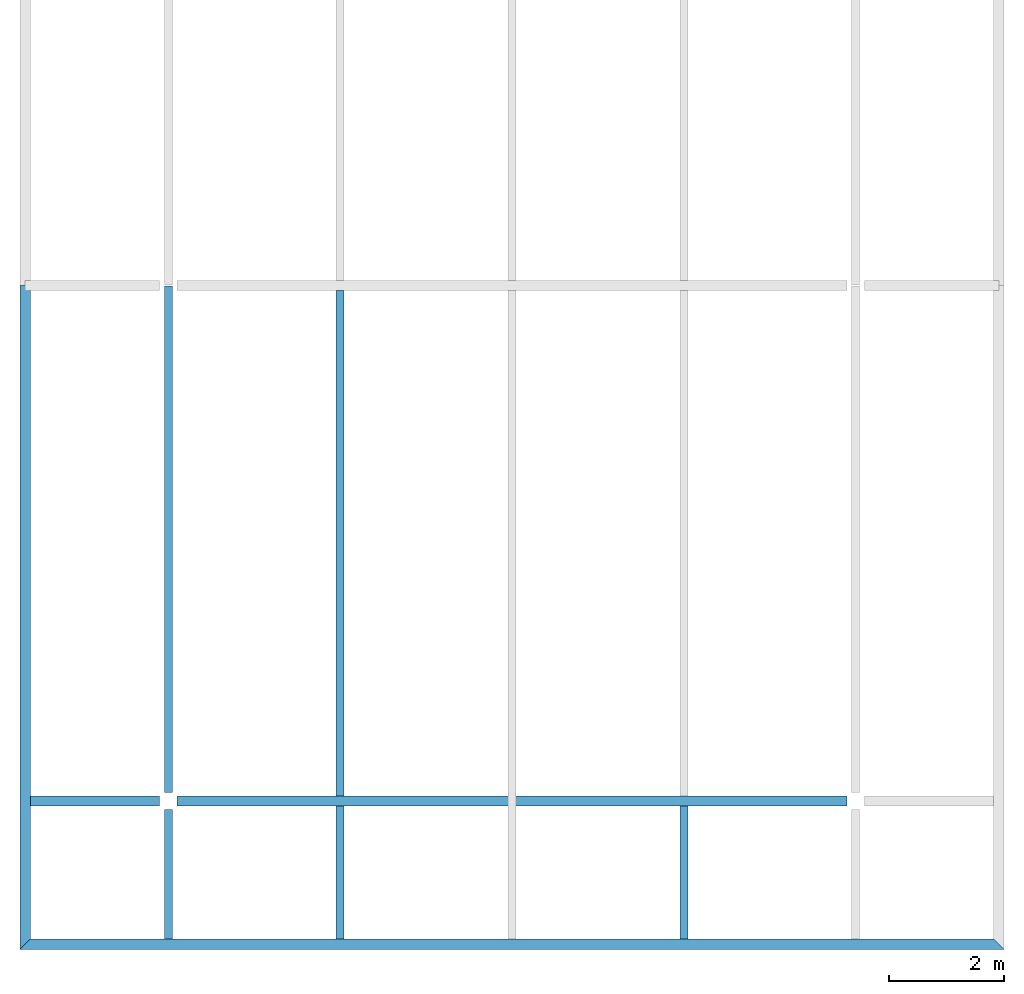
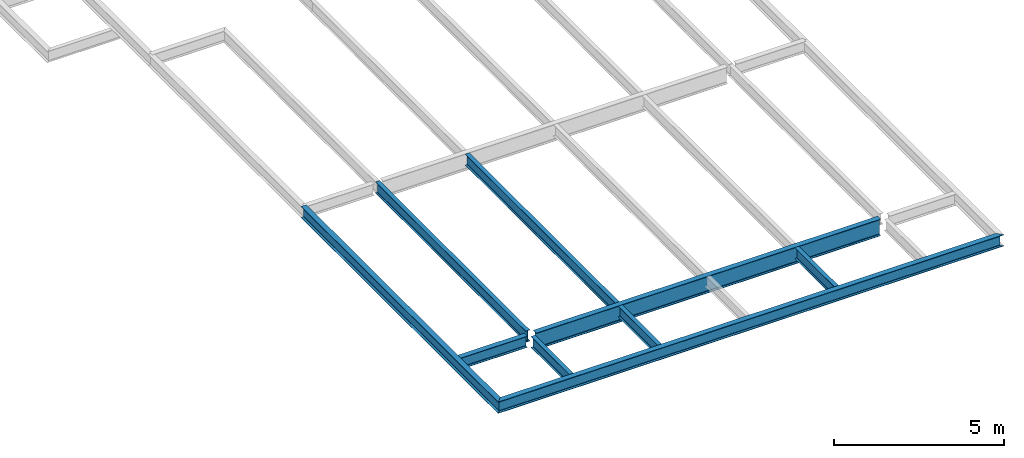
# One storey, part 1 of 7: 9 beams.
"""IFC2X3 building model written with IfcOpenShell, lengths in millimetres."""

import ifcopenshell
import ifcopenshell.guid

model = None  # the IFC model being written
_history = None  # IfcOwnerHistory: only IFC2X3 demands one
_inside = {}  # id of a spatial element -> (the spatial element, [elements in it])
_under = {}  # id of a project, library or spatial element -> (it, [spatial elements below it])
_declared = {}  # id of a project -> (the project, [libraries it declares])
_typed = {}  # id of a type object -> (the type object, [elements of that type])
_made_of = {}  # id of a material, layer set ... -> (it, [elements and type objects made of it])


def new_model(schema):
    """Start an empty IFC model of exactly this schema.

    Asked for "IFC4X3", IfcOpenShell would pick the latest addendum, in which some entities
    have other attributes; the version numbers below select the first issue.
    IFC2X3 requires an IfcOwnerHistory on every rooted entity: one is made here for all.
    """
    global model, _history
    if schema == "IFC4X3":
        model = ifcopenshell.file(schema_version=(4, 3, 0, 0))
    else:
        model = ifcopenshell.file(schema=schema)
    _inside.clear()
    _under.clear()
    _declared.clear()
    _typed.clear()
    _made_of.clear()
    _history = None
    if model.schema == "IFC2X3":
        org = make("IfcOrganization", Name="unknown")
        user = make(
            "IfcPersonAndOrganization",
            ThePerson=make("IfcPerson", FamilyName="unknown"),
            TheOrganization=org,
        )
        app = make(
            "IfcApplication",
            ApplicationDeveloper=org,
            Version="unknown",
            ApplicationFullName="unknown",
            ApplicationIdentifier="unknown",
        )
        _history = make(
            "IfcOwnerHistory",
            OwningUser=user,
            OwningApplication=app,
            ChangeAction="ADDED",
            CreationDate=0,
        )
    return model


def make(cls, **values):
    """One entity of the class cls with the attributes given. An attribute that is None is left unset."""
    return model.create_entity(
        cls, **{name: value for name, value in values.items() if value is not None}
    )


def rooted(cls, **values):
    """An entity with a GlobalId (a new one), such as an element, a storey or a relation."""
    return make(cls, GlobalId=ifcopenshell.guid.new(), OwnerHistory=_history, **values)


def si_unit(unit_type, name, prefix=None):
    """IfcSIUnit, for example si_unit("LENGTHUNIT", "METRE", prefix="MILLI")."""
    return make("IfcSIUnit", UnitType=unit_type, Prefix=prefix, Name=name)


def assignment(units):
    """IfcUnitAssignment: the units of a project."""
    return None if units is None else make("IfcUnitAssignment", Units=units)


def point(xyz):
    """IfcCartesianPoint."""
    return None if xyz is None else make("IfcCartesianPoint", Coordinates=xyz)


def direction(xyz):
    """IfcDirection."""
    return None if xyz is None else make("IfcDirection", DirectionRatios=xyz)


def frame(location, z_axis=None, x_axis=None):
    """IfcAxis2Placement3D, a coordinate frame: its origin and axes. An axis left out is left unset."""
    return make(
        "IfcAxis2Placement3D",
        Location=point(location),
        Axis=direction(z_axis),
        RefDirection=direction(x_axis),
    )


def origin():
    """The frame at (0, 0, 0) with its axes left unset."""
    return frame((0.0, 0.0, 0.0))


def place(relative_to, where):
    """IfcLocalPlacement: puts the frame where relative to a parent placement (None: the world)."""
    return make(
        "IfcLocalPlacement", PlacementRelTo=relative_to, RelativePlacement=where
    )


def context(
    kind, dimensions, precision=None, world=None, true_north=None, identifier=None
):
    """IfcGeometricRepresentationContext, for example the 3D "Model" context."""
    return make(
        "IfcGeometricRepresentationContext",
        ContextIdentifier=identifier,
        ContextType=kind,
        CoordinateSpaceDimension=dimensions,
        Precision=precision,
        WorldCoordinateSystem=world,
        TrueNorth=true_north,
    )


def project(units=None, contexts=None):
    """IfcProject with its units and contexts."""
    return rooted(
        "IfcProject",
        Name="project",
        RepresentationContexts=contexts,
        UnitsInContext=assignment(units),
    )


def spatial(cls, under=None, at=None, **own):
    """A site, building, storey or space (cls), placed at a placement, below another one or the project."""
    s = rooted(cls, ObjectPlacement=at, **own)
    if under is not None:
        _under.setdefault(under.id(), (under, []))[1].append(s)
    return s


def faces_of(points, faces, orient=None, outer=None):
    """IfcFace entities. A face is a list of loops; a loop is a list of indices into points, from 0.

    orient and outer hold one flag for each loop. By default every Orientation is true, the
    first loop of a face is its IfcFaceOuterBound and the others are IfcFaceBound.
    """
    made = []
    for i, loops in enumerate(faces):
        bounds = []
        for j, loop in enumerate(loops):
            is_outer = j == 0 if outer is None else outer[i][j]
            bounds.append(
                make(
                    "IfcFaceOuterBound" if is_outer else "IfcFaceBound",
                    Bound=make("IfcPolyLoop", Polygon=[points[k] for k in loop]),
                    Orientation=True if orient is None else orient[i][j],
                )
            )
        made.append(make("IfcFace", Bounds=bounds))
    return made


def faceted_brep(points, faces, orient=None, outer=None, voids=None):
    """IfcFacetedBrep: a solid bounded by flat faces; with voids (closed shells), ...WithVoids."""
    shared = [point(p) for p in points]
    hull = make("IfcClosedShell", CfsFaces=faces_of(shared, faces, orient, outer))
    if voids is None:
        return make("IfcFacetedBrep", Outer=hull)
    return make(
        "IfcFacetedBrepWithVoids",
        Outer=hull,
        Voids=[
            make(cls, CfsFaces=faces_of(shared, fs, o, b)) for cls, fs, o, b in voids
        ],
    )


def shape(context_of_items, identifier, shape_type, items):
    """IfcShapeRepresentation: the items that make up one representation, for example the "Body"."""
    return make(
        "IfcShapeRepresentation",
        ContextOfItems=context_of_items,
        RepresentationIdentifier=identifier,
        RepresentationType=shape_type,
        Items=items,
    )


def material(Name=None, Category=None):
    """IfcMaterial."""
    return make("IfcMaterial", Name=Name, Category=Category)


def made_of(thing, what):
    """Note that an element or type object is made of a material, layer set ...; save() writes the relation."""
    if what is not None:
        _made_of.setdefault(what.id(), (what, []))[1].append(thing)
    return thing


def element(
    cls,
    number,
    at=None,
    inside=None,
    cuts=None,
    type_object=None,
    material=None,
    context=None,
    identifier="Body",
    shape_type=None,
    held_by="IfcProductDefinitionShape",
    body=None,
    shapes=None,
    **own,
):
    """One element of the class cls, such as IfcWall. Its Tag is "e" and its number.

    at: its placement. inside: the storey or other place that contains it. cuts: it is an
    opening in that element (IfcRelVoidsElement). A single representation is given by context,
    identifier, shape_type and body (its items); several are given by shapes. held_by: the class
    of the entity that holds the representations. save() writes the other relations.
    """
    e = rooted(cls, Tag="e%d" % number, ObjectPlacement=at, **own)
    if body is not None:
        shapes = [shape(context, identifier, shape_type, body)]
    if shapes is not None:
        e.Representation = make(held_by, Representations=shapes)
    if inside is not None:
        _inside.setdefault(inside.id(), (inside, []))[1].append(e)
    if cuts is not None:
        rooted(
            "IfcRelVoidsElement", RelatingBuildingElement=cuts, RelatedOpeningElement=e
        )
    if type_object is not None:
        _typed.setdefault(type_object.id(), (type_object, []))[1].append(e)
    return made_of(e, material)


def aggregate(whole, parts):
    """IfcRelAggregates: a whole, such as a stair, and the parts it consists of."""
    return rooted("IfcRelAggregates", RelatingObject=whole, RelatedObjects=parts)


def save(model, path):
    """Write the relations noted so far, then the file.

    IfcRelAggregates (storeys below a building ...), IfcRelContainedInSpatialStructure (elements
    in a storey), IfcRelDefinesByType, IfcRelAssociatesMaterial and IfcRelDeclares: one each for
    every whole, place, type object, material and project.
    """
    for whole, parts in _under.values():
        aggregate(whole, parts)
    for where, things in _inside.values():
        rooted(
            "IfcRelContainedInSpatialStructure",
            RelatedElements=things,
            RelatingStructure=where,
        )
    for kind, things in _typed.values():
        rooted("IfcRelDefinesByType", RelatedObjects=things, RelatingType=kind)
    for what, things in _made_of.values():
        rooted("IfcRelAssociatesMaterial", RelatedObjects=things, RelatingMaterial=what)
    for by, libraries in _declared.values():
        rooted("IfcRelDeclares", RelatingContext=by, RelatedDefinitions=libraries)
    model.write(path)


model = new_model("IFC2X3")

# Units and contexts
context_of_model = context(None, 3, precision=1e-05, world=origin())
ifc_project = project(units=[si_unit("LENGTHUNIT", "METRE", prefix="MILLI")], contexts=[context_of_model])

# Building, storey
building = spatial("IfcBuilding", under=ifc_project, Name="Building", CompositionType="ELEMENT")
storey = spatial("IfcBuildingStorey", under=building, Name="ROF-FRM", CompositionType="ELEMENT")

# Beams
ifc_material_1 = material(Name="A992")
beam_1_placement = place(None, origin())
element("IfcBeam", 1, at=beam_1_placement, inside=storey, material=ifc_material_1, Name="B1128", context=context_of_model, shape_type="Brep", body=[
    faceted_brep([(-2410.0, -89.0, 31266.0), (-2410.0, 89.0, 31266.0), (-152.5, 89.0, 31266.0), (-152.5, -89.0, 31266.0), (-2410.0, 89.0, 31278.8), (-152.5, 89.0, 31278.8), (-2410.0, 14.05, 31278.8), (-152.5, 14.05, 31278.8), (-2410.0, 11.41, 31279.1), (-152.5, 11.41, 31279.1), (-2410.0, 8.95, 31280.2), (-152.5, 8.95, 31280.2), (-2410.0, 6.83751, 31281.8), (-152.5, 6.83751, 31281.8), (-2410.0, 5.21654, 31283.9), (-152.5, 5.21654, 31283.9), (-2410.0, 4.19756, 31286.4), (-152.5, 4.19756, 31286.4), (-2410.0, 3.85, 31289.0), (-152.5, 3.85, 31289.0), (-2410.0, 3.85, 31650.0), (-152.5, 3.85, 31650.0), (-2410.0, 4.19756, 31652.6), (-152.5, 4.19756, 31652.6), (-2410.0, 5.21654, 31655.1), (-152.5, 5.21654, 31655.1), (-2410.0, 6.83751, 31657.2), (-152.5, 6.83751, 31657.2), (-2410.0, 8.95, 31658.8), (-152.5, 8.95, 31658.8), (-2410.0, 11.41, 31659.9), (-152.5, 11.41, 31659.9), (-2410.0, 14.05, 31660.2), (-152.5, 14.05, 31660.2), (-2410.0, 89.0, 31660.2), (-152.5, 89.0, 31660.2), (-2410.0, 89.0, 31673.0), (-152.5, 89.0, 31673.0), (-2410.0, -89.0, 31673.0), (-152.5, -89.0, 31673.0), (-2410.0, -89.0, 31660.2), (-152.5, -89.0, 31660.2), (-2410.0, -14.05, 31660.2), (-152.5, -14.05, 31660.2), (-2410.0, -11.41, 31659.9), (-152.5, -11.41, 31659.9), (-2410.0, -8.95, 31658.8), (-152.5, -8.95, 31658.8), (-2410.0, -6.83751, 31657.2), (-152.5, -6.83751, 31657.2), (-2410.0, -5.21654, 31655.1), (-152.5, -5.21654, 31655.1), (-2410.0, -4.19756, 31652.6), (-152.5, -4.19756, 31652.6), (-2410.0, -3.85, 31650.0), (-152.5, -3.85, 31650.0), (-2410.0, -3.85, 31289.0), (-152.5, -3.85, 31289.0), (-2410.0, -4.19756, 31286.4), (-152.5, -4.19756, 31286.4), (-2410.0, -5.21654, 31283.9), (-152.5, -5.21654, 31283.9), (-2410.0, -6.83751, 31281.8), (-152.5, -6.83751, 31281.8), (-2410.0, -8.95, 31280.2), (-152.5, -8.95, 31280.2), (-2410.0, -11.41, 31279.1), (-152.5, -11.41, 31279.1), (-2410.0, -14.05, 31278.8), (-152.5, -14.05, 31278.8), (-2410.0, -89.0, 31278.8), (-152.5, -89.0, 31278.8)], [[[0, 1, 2, 3]], [[1, 4, 5, 2]], [[4, 6, 7, 5]], [[6, 8, 9, 7]], [[8, 10, 11, 9]], [[10, 12, 13, 11]], [[12, 14, 15, 13]], [[14, 16, 17, 15]], [[16, 18, 19, 17]], [[18, 20, 21, 19]], [[20, 22, 23, 21]], [[22, 24, 25, 23]], [[24, 26, 27, 25]], [[26, 28, 29, 27]], [[28, 30, 31, 29]], [[30, 32, 33, 31]], [[32, 34, 35, 33]], [[34, 36, 37, 35]], [[36, 38, 39, 37]], [[38, 40, 41, 39]], [[40, 42, 43, 41]], [[42, 44, 45, 43]], [[44, 46, 47, 45]], [[46, 48, 49, 47]], [[48, 50, 51, 49]], [[50, 52, 53, 51]], [[52, 54, 55, 53]], [[54, 56, 57, 55]], [[56, 58, 59, 57]], [[58, 60, 61, 59]], [[60, 62, 63, 61]], [[62, 64, 65, 63]], [[64, 66, 67, 65]], [[66, 68, 69, 67]], [[68, 70, 71, 69]], [[70, 0, 3, 71]], [[0, 70, 68, 66, 64, 62, 60, 58, 56, 54, 52, 50, 48, 46, 44, 42, 40, 38, 36, 34, 32, 30, 28, 26, 24, 22, 20, 18, 16, 14, 12, 10, 8, 6, 4, 1]], [[3, 2, 5, 7, 9, 11, 13, 15, 17, 19, 21, 23, 25, 27, 29, 31, 33, 35, 37, 39, 41, 43, 45, 47, 49, 51, 53, 55, 57, 59, 61, 63, 65, 67, 69, 71]]]),
])
ifc_material_2 = material(Name="A992")
beam_2_placement = place(None, origin())
element("IfcBeam", 2, at=beam_2_placement, inside=storey, material=ifc_material_2, Name="B1135", context=context_of_model, shape_type="Brep", body=[
    faceted_brep([(-2590.0, -2590.0, 31260.0), (-2410.0, -2410.0, 31260.0), (14410.0, -2410.0, 31260.0), (14590.0, -2590.0, 31260.0), (-2410.0, -2410.0, 31276.0), (14410.0, -2410.0, 31276.0), (-2484.95, -2484.95, 31276.0), (14485.0, -2484.95, 31276.0), (-2486.53, -2486.53, 31276.1), (14486.5, -2486.53, 31276.1), (-2488.09, -2488.09, 31276.5), (14488.1, -2488.09, 31276.5), (-2489.55, -2489.55, 31277.1), (14489.6, -2489.55, 31277.1), (-2490.91, -2490.91, 31277.9), (14490.9, -2490.91, 31277.9), (-2492.16, -2492.16, 31279.0), (14492.2, -2492.16, 31279.0), (-2493.17, -2493.17, 31280.2), (14493.2, -2493.17, 31280.2), (-2494.03, -2494.03, 31281.5), (14494.0, -2494.03, 31281.5), (-2494.63, -2494.63, 31283.0), (14494.6, -2494.63, 31283.0), (-2494.99, -2494.99, 31284.6), (14495.0, -2494.99, 31284.6), (-2495.15, -2495.15, 31286.2), (14495.2, -2495.15, 31286.2), (-2495.15, -2495.15, 31646.8), (14495.2, -2495.15, 31646.8), (-2494.99, -2494.99, 31648.4), (14495.0, -2494.99, 31648.4), (-2494.63, -2494.63, 31650.0), (14494.6, -2494.63, 31650.0), (-2494.03, -2494.03, 31651.5), (14494.0, -2494.03, 31651.5), (-2493.17, -2493.17, 31652.8), (14493.2, -2493.17, 31652.8), (-2492.16, -2492.16, 31654.0), (14492.2, -2492.16, 31654.0), (-2490.91, -2490.91, 31655.1), (14490.9, -2490.91, 31655.1), (-2489.55, -2489.55, 31655.9), (14489.6, -2489.55, 31655.9), (-2488.09, -2488.09, 31656.5), (14488.1, -2488.09, 31656.5), (-2486.53, -2486.53, 31656.9), (14486.5, -2486.53, 31656.9), (-2484.95, -2484.95, 31657.0), (14485.0, -2484.95, 31657.0), (-2410.0, -2410.0, 31657.0), (14410.0, -2410.0, 31657.0), (-2410.0, -2410.0, 31673.0), (14410.0, -2410.0, 31673.0), (-2590.0, -2590.0, 31673.0), (14590.0, -2590.0, 31673.0), (-2590.0, -2590.0, 31657.0), (14590.0, -2590.0, 31657.0), (-2515.05, -2515.05, 31657.0), (14515.0, -2515.05, 31657.0), (-2513.47, -2513.47, 31656.9), (14513.5, -2513.47, 31656.9), (-2511.91, -2511.91, 31656.5), (14511.9, -2511.91, 31656.5), (-2510.45, -2510.45, 31655.9), (14510.4, -2510.45, 31655.9), (-2509.09, -2509.09, 31655.1), (14509.1, -2509.09, 31655.1), (-2507.84, -2507.84, 31654.0), (14507.8, -2507.84, 31654.0), (-2506.83, -2506.83, 31652.8), (14506.8, -2506.83, 31652.8), (-2505.97, -2505.97, 31651.5), (14506.0, -2505.97, 31651.5), (-2505.37, -2505.37, 31650.0), (14505.4, -2505.37, 31650.0), (-2505.01, -2505.01, 31648.4), (14505.0, -2505.01, 31648.4), (-2504.85, -2504.85, 31646.8), (14504.8, -2504.85, 31646.8), (-2504.85, -2504.85, 31286.2), (14504.8, -2504.85, 31286.2), (-2505.01, -2505.01, 31284.6), (14505.0, -2505.01, 31284.6), (-2505.37, -2505.37, 31283.0), (14505.4, -2505.37, 31283.0), (-2505.97, -2505.97, 31281.5), (14506.0, -2505.97, 31281.5), (-2506.83, -2506.83, 31280.2), (14506.8, -2506.83, 31280.2), (-2507.84, -2507.84, 31279.0), (14507.8, -2507.84, 31279.0), (-2509.09, -2509.09, 31277.9), (14509.1, -2509.09, 31277.9), (-2510.45, -2510.45, 31277.1), (14510.4, -2510.45, 31277.1), (-2511.91, -2511.91, 31276.5), (14511.9, -2511.91, 31276.5), (-2513.47, -2513.47, 31276.1), (14513.5, -2513.47, 31276.1), (-2515.05, -2515.05, 31276.0), (14515.0, -2515.05, 31276.0), (-2590.0, -2590.0, 31276.0), (14590.0, -2590.0, 31276.0)], [[[0, 1, 2, 3]], [[1, 4, 5, 2]], [[4, 6, 7, 5]], [[6, 8, 9, 7]], [[8, 10, 11, 9]], [[10, 12, 13, 11]], [[12, 14, 15, 13]], [[14, 16, 17, 15]], [[16, 18, 19, 17]], [[18, 20, 21, 19]], [[20, 22, 23, 21]], [[22, 24, 25, 23]], [[24, 26, 27, 25]], [[26, 28, 29, 27]], [[28, 30, 31, 29]], [[30, 32, 33, 31]], [[32, 34, 35, 33]], [[34, 36, 37, 35]], [[36, 38, 39, 37]], [[38, 40, 41, 39]], [[40, 42, 43, 41]], [[42, 44, 45, 43]], [[44, 46, 47, 45]], [[46, 48, 49, 47]], [[48, 50, 51, 49]], [[50, 52, 53, 51]], [[52, 54, 55, 53]], [[54, 56, 57, 55]], [[56, 58, 59, 57]], [[58, 60, 61, 59]], [[60, 62, 63, 61]], [[62, 64, 65, 63]], [[64, 66, 67, 65]], [[66, 68, 69, 67]], [[68, 70, 71, 69]], [[70, 72, 73, 71]], [[72, 74, 75, 73]], [[74, 76, 77, 75]], [[76, 78, 79, 77]], [[78, 80, 81, 79]], [[80, 82, 83, 81]], [[82, 84, 85, 83]], [[84, 86, 87, 85]], [[86, 88, 89, 87]], [[88, 90, 91, 89]], [[90, 92, 93, 91]], [[92, 94, 95, 93]], [[94, 96, 97, 95]], [[96, 98, 99, 97]], [[98, 100, 101, 99]], [[100, 102, 103, 101]], [[102, 0, 3, 103]], [[0, 102, 100, 98, 96, 94, 92, 90, 88, 86, 84, 82, 80, 78, 76, 74, 72, 70, 68, 66, 64, 62, 60, 58, 56, 54, 52, 50, 48, 46, 44, 42, 40, 38, 36, 34, 32, 30, 28, 26, 24, 22, 20, 18, 16, 14, 12, 10, 8, 6, 4, 1]], [[3, 2, 5, 7, 9, 11, 13, 15, 17, 19, 21, 23, 25, 27, 29, 31, 33, 35, 37, 39, 41, 43, 45, 47, 49, 51, 53, 55, 57, 59, 61, 63, 65, 67, 69, 71, 73, 75, 77, 79, 81, 83, 85, 87, 89, 91, 93, 95, 97, 99, 101, 103]]]),
])
ifc_material_3 = material(Name="A992")
beam_3_placement = place(None, origin())
element("IfcBeam", 3, at=beam_3_placement, inside=storey, material=ifc_material_3, Name="B1140", context=context_of_model, shape_type="Brep", body=[
    faceted_brep([(-2410.0, -2410.0, 31260.0), (-2590.0, -2590.0, 31260.0), (-2590.0, 9000.0, 31260.0), (-2410.0, 9000.0, 31260.0), (-2590.0, -2590.0, 31276.0), (-2590.0, 9000.0, 31276.0), (-2515.05, -2515.05, 31276.0), (-2515.05, 9000.0, 31276.0), (-2513.47, -2513.47, 31276.1), (-2513.45, 9000.0, 31276.1), (-2511.91, -2511.91, 31276.5), (-2511.9, 9000.0, 31276.5), (-2510.45, -2510.45, 31277.1), (-2510.42, 9000.0, 31277.1), (-2509.09, -2509.09, 31277.9), (-2509.05, 9000.0, 31277.9), (-2507.84, -2507.84, 31279.0), (-2507.84, 9000.0, 31279.0), (-2506.83, -2506.83, 31280.2), (-2506.8, 9000.0, 31280.2), (-2505.97, -2505.97, 31281.5), (-2505.96, 9000.0, 31281.6), (-2505.37, -2505.37, 31283.0), (-2505.35, 9000.0, 31283.0), (-2505.01, -2505.01, 31284.6), (-2504.98, 9000.0, 31284.6), (-2504.85, -2504.85, 31286.2), (-2504.85, 9000.0, 31286.2), (-2504.85, -2504.85, 31646.8), (-2504.85, 9000.0, 31646.8), (-2505.01, -2505.01, 31648.4), (-2504.98, 9000.0, 31648.4), (-2505.37, -2505.37, 31650.0), (-2505.35, 9000.0, 31650.0), (-2505.97, -2505.97, 31651.5), (-2505.96, 9000.0, 31651.4), (-2506.83, -2506.83, 31652.8), (-2506.8, 9000.0, 31652.8), (-2507.84, -2507.84, 31654.0), (-2507.84, 9000.0, 31654.0), (-2509.09, -2509.09, 31655.1), (-2509.05, 9000.0, 31655.1), (-2510.45, -2510.45, 31655.9), (-2510.42, 9000.0, 31655.9), (-2511.91, -2511.91, 31656.5), (-2511.9, 9000.0, 31656.5), (-2513.47, -2513.47, 31656.9), (-2513.45, 9000.0, 31656.9), (-2515.05, -2515.05, 31657.0), (-2515.05, 9000.0, 31657.0), (-2590.0, -2590.0, 31657.0), (-2590.0, 9000.0, 31657.0), (-2590.0, -2590.0, 31673.0), (-2590.0, 9000.0, 31673.0), (-2410.0, -2410.0, 31673.0), (-2410.0, 9000.0, 31673.0), (-2410.0, -2410.0, 31657.0), (-2410.0, 9000.0, 31657.0), (-2484.95, -2484.95, 31657.0), (-2484.95, 9000.0, 31657.0), (-2486.53, -2486.53, 31656.9), (-2486.55, 9000.0, 31656.9), (-2488.09, -2488.09, 31656.5), (-2488.1, 9000.0, 31656.5), (-2489.55, -2489.55, 31655.9), (-2489.58, 9000.0, 31655.9), (-2490.91, -2490.91, 31655.1), (-2490.95, 9000.0, 31655.1), (-2492.16, -2492.16, 31654.0), (-2492.16, 9000.0, 31654.0), (-2493.17, -2493.17, 31652.8), (-2493.2, 9000.0, 31652.8), (-2494.03, -2494.03, 31651.5), (-2494.04, 9000.0, 31651.4), (-2494.63, -2494.63, 31650.0), (-2494.65, 9000.0, 31650.0), (-2494.99, -2494.99, 31648.4), (-2495.02, 9000.0, 31648.4), (-2495.15, -2495.15, 31646.8), (-2495.15, 9000.0, 31646.8), (-2495.15, -2495.15, 31286.2), (-2495.15, 9000.0, 31286.2), (-2494.99, -2494.99, 31284.6), (-2495.02, 9000.0, 31284.6), (-2494.63, -2494.63, 31283.0), (-2494.65, 9000.0, 31283.0), (-2494.03, -2494.03, 31281.5), (-2494.04, 9000.0, 31281.6), (-2493.17, -2493.17, 31280.2), (-2493.2, 9000.0, 31280.2), (-2492.16, -2492.16, 31279.0), (-2492.16, 9000.0, 31279.0), (-2490.91, -2490.91, 31277.9), (-2490.95, 9000.0, 31277.9), (-2489.55, -2489.55, 31277.1), (-2489.58, 9000.0, 31277.1), (-2488.09, -2488.09, 31276.5), (-2488.1, 9000.0, 31276.5), (-2486.53, -2486.53, 31276.1), (-2486.55, 9000.0, 31276.1), (-2484.95, -2484.95, 31276.0), (-2484.95, 9000.0, 31276.0), (-2410.0, -2410.0, 31276.0), (-2410.0, 9000.0, 31276.0)], [[[0, 1, 2, 3]], [[1, 4, 5, 2]], [[4, 6, 7, 5]], [[6, 8, 9, 7]], [[8, 10, 11, 9]], [[10, 12, 13, 11]], [[12, 14, 15, 13]], [[14, 16, 17, 15]], [[16, 18, 19, 17]], [[18, 20, 21, 19]], [[20, 22, 23, 21]], [[22, 24, 25, 23]], [[24, 26, 27, 25]], [[26, 28, 29, 27]], [[28, 30, 31, 29]], [[30, 32, 33, 31]], [[32, 34, 35, 33]], [[34, 36, 37, 35]], [[36, 38, 39, 37]], [[38, 40, 41, 39]], [[40, 42, 43, 41]], [[42, 44, 45, 43]], [[44, 46, 47, 45]], [[46, 48, 49, 47]], [[48, 50, 51, 49]], [[50, 52, 53, 51]], [[52, 54, 55, 53]], [[54, 56, 57, 55]], [[56, 58, 59, 57]], [[58, 60, 61, 59]], [[60, 62, 63, 61]], [[62, 64, 65, 63]], [[64, 66, 67, 65]], [[66, 68, 69, 67]], [[68, 70, 71, 69]], [[70, 72, 73, 71]], [[72, 74, 75, 73]], [[74, 76, 77, 75]], [[76, 78, 79, 77]], [[78, 80, 81, 79]], [[80, 82, 83, 81]], [[82, 84, 85, 83]], [[84, 86, 87, 85]], [[86, 88, 89, 87]], [[88, 90, 91, 89]], [[90, 92, 93, 91]], [[92, 94, 95, 93]], [[94, 96, 97, 95]], [[96, 98, 99, 97]], [[98, 100, 101, 99]], [[100, 102, 103, 101]], [[102, 0, 3, 103]], [[0, 102, 100, 98, 96, 94, 92, 90, 88, 86, 84, 82, 80, 78, 76, 74, 72, 70, 68, 66, 64, 62, 60, 58, 56, 54, 52, 50, 48, 46, 44, 42, 40, 38, 36, 34, 32, 30, 28, 26, 24, 22, 20, 18, 16, 14, 12, 10, 8, 6, 4, 1]], [[3, 2, 5, 7, 9, 11, 13, 15, 17, 19, 21, 23, 25, 27, 29, 31, 33, 35, 37, 39, 41, 43, 45, 47, 49, 51, 53, 55, 57, 59, 61, 63, 65, 67, 69, 71, 73, 75, 77, 79, 81, 83, 85, 87, 89, 91, 93, 95, 97, 99, 101, 103]]]),
])
ifc_material_4 = material(Name="A992")
beam_4_placement = place(None, origin())
element("IfcBeam", 4, at=beam_4_placement, inside=storey, material=ifc_material_4, Name="B1161", context=context_of_model, shape_type="Brep", body=[
    faceted_brep([(8930.0, -89.5, 31274.0), (9070.0, -89.5, 31274.0), (9070.0, -2410.0, 31274.0), (8930.0, -2410.0, 31274.0), (9070.0, -89.5, 31282.8), (9070.0, -2410.0, 31282.8), (9013.4, -89.5, 31282.8), (9013.4, -2410.0, 31282.8), (9010.76, -89.5, 31283.1), (9010.76, -2410.0, 31283.1), (9008.3, -89.5, 31284.2), (9008.3, -2410.0, 31284.2), (9006.19, -89.5, 31285.8), (9006.19, -2410.0, 31285.8), (9004.57, -89.5, 31287.9), (9004.57, -2410.0, 31287.9), (9003.55, -89.5, 31290.4), (9003.55, -2410.0, 31290.4), (9003.2, -89.5, 31293.0), (9003.2, -2410.0, 31293.0), (9003.2, -89.5, 31654.0), (9003.2, -2410.0, 31654.0), (9003.55, -89.5, 31656.6), (9003.55, -2410.0, 31656.6), (9004.57, -89.5, 31659.1), (9004.57, -2410.0, 31659.1), (9006.19, -89.5, 31661.2), (9006.19, -2410.0, 31661.2), (9008.3, -89.5, 31662.8), (9008.3, -2410.0, 31662.8), (9010.76, -89.5, 31663.9), (9010.76, -2410.0, 31663.9), (9013.4, -89.5, 31664.2), (9013.4, -2410.0, 31664.2), (9070.0, -89.5, 31664.2), (9070.0, -2410.0, 31664.2), (9070.0, -89.5, 31673.0), (9070.0, -2410.0, 31673.0), (8930.0, -89.5, 31673.0), (8930.0, -2410.0, 31673.0), (8930.0, -89.5, 31664.2), (8930.0, -2410.0, 31664.2), (8986.6, -89.5, 31664.2), (8986.6, -2410.0, 31664.2), (8989.24, -89.5, 31663.9), (8989.24, -2410.0, 31663.9), (8991.7, -89.5, 31662.8), (8991.7, -2410.0, 31662.8), (8993.81, -89.5, 31661.2), (8993.81, -2410.0, 31661.2), (8995.43, -89.5, 31659.1), (8995.43, -2410.0, 31659.1), (8996.45, -89.5, 31656.6), (8996.45, -2410.0, 31656.6), (8996.8, -89.5, 31654.0), (8996.8, -2410.0, 31654.0), (8996.8, -89.5, 31293.0), (8996.8, -2410.0, 31293.0), (8996.45, -89.5, 31290.4), (8996.45, -2410.0, 31290.4), (8995.43, -89.5, 31287.9), (8995.43, -2410.0, 31287.9), (8993.81, -89.5, 31285.8), (8993.81, -2410.0, 31285.8), (8991.7, -89.5, 31284.2), (8991.7, -2410.0, 31284.2), (8989.24, -89.5, 31283.1), (8989.24, -2410.0, 31283.1), (8986.6, -89.5, 31282.8), (8986.6, -2410.0, 31282.8), (8930.0, -89.5, 31282.8), (8930.0, -2410.0, 31282.8)], [[[0, 1, 2, 3]], [[1, 4, 5, 2]], [[4, 6, 7, 5]], [[6, 8, 9, 7]], [[8, 10, 11, 9]], [[10, 12, 13, 11]], [[12, 14, 15, 13]], [[14, 16, 17, 15]], [[16, 18, 19, 17]], [[18, 20, 21, 19]], [[20, 22, 23, 21]], [[22, 24, 25, 23]], [[24, 26, 27, 25]], [[26, 28, 29, 27]], [[28, 30, 31, 29]], [[30, 32, 33, 31]], [[32, 34, 35, 33]], [[34, 36, 37, 35]], [[36, 38, 39, 37]], [[38, 40, 41, 39]], [[40, 42, 43, 41]], [[42, 44, 45, 43]], [[44, 46, 47, 45]], [[46, 48, 49, 47]], [[48, 50, 51, 49]], [[50, 52, 53, 51]], [[52, 54, 55, 53]], [[54, 56, 57, 55]], [[56, 58, 59, 57]], [[58, 60, 61, 59]], [[60, 62, 63, 61]], [[62, 64, 65, 63]], [[64, 66, 67, 65]], [[66, 68, 69, 67]], [[68, 70, 71, 69]], [[70, 0, 3, 71]], [[0, 70, 68, 66, 64, 62, 60, 58, 56, 54, 52, 50, 48, 46, 44, 42, 40, 38, 36, 34, 32, 30, 28, 26, 24, 22, 20, 18, 16, 14, 12, 10, 8, 6, 4, 1]], [[3, 2, 5, 7, 9, 11, 13, 15, 17, 19, 21, 23, 25, 27, 29, 31, 33, 35, 37, 39, 41, 43, 45, 47, 49, 51, 53, 55, 57, 59, 61, 63, 65, 67, 69, 71]]]),
])
ifc_material_5 = material(Name="A992")
beam_5_placement = place(None, origin())
element("IfcBeam", 5, at=beam_5_placement, inside=storey, material=ifc_material_5, Name="B1167", context=context_of_model, shape_type="Brep", body=[
    faceted_brep([(2930.0, -89.5, 31274.0), (3070.0, -89.5, 31274.0), (3070.0, -2410.0, 31274.0), (2930.0, -2410.0, 31274.0), (3070.0, -89.5, 31282.8), (3070.0, -2410.0, 31282.8), (3013.4, -89.5, 31282.8), (3013.4, -2410.0, 31282.8), (3010.76, -89.5, 31283.1), (3010.76, -2410.0, 31283.1), (3008.3, -89.5, 31284.2), (3008.3, -2410.0, 31284.2), (3006.19, -89.5, 31285.8), (3006.19, -2410.0, 31285.8), (3004.57, -89.5, 31287.9), (3004.57, -2410.0, 31287.9), (3003.55, -89.5, 31290.4), (3003.55, -2410.0, 31290.4), (3003.2, -89.5, 31293.0), (3003.2, -2410.0, 31293.0), (3003.2, -89.5, 31654.0), (3003.2, -2410.0, 31654.0), (3003.55, -89.5, 31656.6), (3003.55, -2410.0, 31656.6), (3004.57, -89.5, 31659.1), (3004.57, -2410.0, 31659.1), (3006.19, -89.5, 31661.2), (3006.19, -2410.0, 31661.2), (3008.3, -89.5, 31662.8), (3008.3, -2410.0, 31662.8), (3010.76, -89.5, 31663.9), (3010.76, -2410.0, 31663.9), (3013.4, -89.5, 31664.2), (3013.4, -2410.0, 31664.2), (3070.0, -89.5, 31664.2), (3070.0, -2410.0, 31664.2), (3070.0, -89.5, 31673.0), (3070.0, -2410.0, 31673.0), (2930.0, -89.5, 31673.0), (2930.0, -2410.0, 31673.0), (2930.0, -89.5, 31664.2), (2930.0, -2410.0, 31664.2), (2986.6, -89.5, 31664.2), (2986.6, -2410.0, 31664.2), (2989.24, -89.5, 31663.9), (2989.24, -2410.0, 31663.9), (2991.7, -89.5, 31662.8), (2991.7, -2410.0, 31662.8), (2993.81, -89.5, 31661.2), (2993.81, -2410.0, 31661.2), (2995.43, -89.5, 31659.1), (2995.43, -2410.0, 31659.1), (2996.45, -89.5, 31656.6), (2996.45, -2410.0, 31656.6), (2996.8, -89.5, 31654.0), (2996.8, -2410.0, 31654.0), (2996.8, -89.5, 31293.0), (2996.8, -2410.0, 31293.0), (2996.45, -89.5, 31290.4), (2996.45, -2410.0, 31290.4), (2995.43, -89.5, 31287.9), (2995.43, -2410.0, 31287.9), (2993.81, -89.5, 31285.8), (2993.81, -2410.0, 31285.8), (2991.7, -89.5, 31284.2), (2991.7, -2410.0, 31284.2), (2989.24, -89.5, 31283.1), (2989.24, -2410.0, 31283.1), (2986.6, -89.5, 31282.8), (2986.6, -2410.0, 31282.8), (2930.0, -89.5, 31282.8), (2930.0, -2410.0, 31282.8)], [[[0, 1, 2, 3]], [[1, 4, 5, 2]], [[4, 6, 7, 5]], [[6, 8, 9, 7]], [[8, 10, 11, 9]], [[10, 12, 13, 11]], [[12, 14, 15, 13]], [[14, 16, 17, 15]], [[16, 18, 19, 17]], [[18, 20, 21, 19]], [[20, 22, 23, 21]], [[22, 24, 25, 23]], [[24, 26, 27, 25]], [[26, 28, 29, 27]], [[28, 30, 31, 29]], [[30, 32, 33, 31]], [[32, 34, 35, 33]], [[34, 36, 37, 35]], [[36, 38, 39, 37]], [[38, 40, 41, 39]], [[40, 42, 43, 41]], [[42, 44, 45, 43]], [[44, 46, 47, 45]], [[46, 48, 49, 47]], [[48, 50, 51, 49]], [[50, 52, 53, 51]], [[52, 54, 55, 53]], [[54, 56, 57, 55]], [[56, 58, 59, 57]], [[58, 60, 61, 59]], [[60, 62, 63, 61]], [[62, 64, 65, 63]], [[64, 66, 67, 65]], [[66, 68, 69, 67]], [[68, 70, 71, 69]], [[70, 0, 3, 71]], [[0, 70, 68, 66, 64, 62, 60, 58, 56, 54, 52, 50, 48, 46, 44, 42, 40, 38, 36, 34, 32, 30, 28, 26, 24, 22, 20, 18, 16, 14, 12, 10, 8, 6, 4, 1]], [[3, 2, 5, 7, 9, 11, 13, 15, 17, 19, 21, 23, 25, 27, 29, 31, 33, 35, 37, 39, 41, 43, 45, 47, 49, 51, 53, 55, 57, 59, 61, 63, 65, 67, 69, 71]]]),
])
ifc_material_6 = material(Name="A992")
beam_6_placement = place(None, origin())
element("IfcBeam", 6, at=beam_6_placement, inside=storey, material=ifc_material_6, Name="B1168", context=context_of_model, shape_type="Brep", body=[
    faceted_brep([(2930.0, 8910.5, 31270.0), (3070.0, 8910.5, 31270.0), (3070.0, 89.5, 31270.0), (2930.0, 89.5, 31270.0), (3070.0, 8910.5, 31281.2), (3070.0, 89.5, 31281.2), (3013.7, 8910.5, 31281.2), (3013.7, 89.5, 31281.2), (3011.06, 8910.5, 31281.5), (3011.06, 89.5, 31281.5), (3008.6, 8910.5, 31282.6), (3008.6, 89.5, 31282.6), (3006.49, 8910.5, 31284.2), (3006.49, 89.5, 31284.2), (3004.87, 8910.5, 31286.3), (3004.87, 89.5, 31286.3), (3003.85, 8910.5, 31288.8), (3003.85, 89.5, 31288.8), (3003.5, 8910.5, 31291.4), (3003.5, 89.5, 31291.4), (3003.5, 8910.5, 31651.6), (3003.5, 89.5, 31651.6), (3003.85, 8910.5, 31654.2), (3003.85, 89.5, 31654.2), (3004.87, 8910.5, 31656.7), (3004.87, 89.5, 31656.7), (3006.49, 8910.5, 31658.8), (3006.49, 89.5, 31658.8), (3008.6, 8910.5, 31660.4), (3008.6, 89.5, 31660.4), (3011.06, 8910.5, 31661.5), (3011.06, 89.5, 31661.5), (3013.7, 8910.5, 31661.8), (3013.7, 89.5, 31661.8), (3070.0, 8910.5, 31661.8), (3070.0, 89.5, 31661.8), (3070.0, 8910.5, 31673.0), (3070.0, 89.5, 31673.0), (2930.0, 8910.5, 31673.0), (2930.0, 89.5, 31673.0), (2930.0, 8910.5, 31661.8), (2930.0, 89.5, 31661.8), (2986.3, 8910.5, 31661.8), (2986.3, 89.5, 31661.8), (2988.94, 8910.5, 31661.5), (2988.94, 89.5, 31661.5), (2991.4, 8910.5, 31660.4), (2991.4, 89.5, 31660.4), (2993.51, 8910.5, 31658.8), (2993.51, 89.5, 31658.8), (2995.13, 8910.5, 31656.7), (2995.13, 89.5, 31656.7), (2996.15, 8910.5, 31654.2), (2996.15, 89.5, 31654.2), (2996.5, 8910.5, 31651.6), (2996.5, 89.5, 31651.6), (2996.5, 8910.5, 31291.4), (2996.5, 89.5, 31291.4), (2996.15, 8910.5, 31288.8), (2996.15, 89.5, 31288.8), (2995.13, 8910.5, 31286.3), (2995.13, 89.5, 31286.3), (2993.51, 8910.5, 31284.2), (2993.51, 89.5, 31284.2), (2991.4, 8910.5, 31282.6), (2991.4, 89.5, 31282.6), (2988.94, 8910.5, 31281.5), (2988.94, 89.5, 31281.5), (2986.3, 8910.5, 31281.2), (2986.3, 89.5, 31281.2), (2930.0, 8910.5, 31281.2), (2930.0, 89.5, 31281.2)], [[[0, 1, 2, 3]], [[1, 4, 5, 2]], [[4, 6, 7, 5]], [[6, 8, 9, 7]], [[8, 10, 11, 9]], [[10, 12, 13, 11]], [[12, 14, 15, 13]], [[14, 16, 17, 15]], [[16, 18, 19, 17]], [[18, 20, 21, 19]], [[20, 22, 23, 21]], [[22, 24, 25, 23]], [[24, 26, 27, 25]], [[26, 28, 29, 27]], [[28, 30, 31, 29]], [[30, 32, 33, 31]], [[32, 34, 35, 33]], [[34, 36, 37, 35]], [[36, 38, 39, 37]], [[38, 40, 41, 39]], [[40, 42, 43, 41]], [[42, 44, 45, 43]], [[44, 46, 47, 45]], [[46, 48, 49, 47]], [[48, 50, 51, 49]], [[50, 52, 53, 51]], [[52, 54, 55, 53]], [[54, 56, 57, 55]], [[56, 58, 59, 57]], [[58, 60, 61, 59]], [[60, 62, 63, 61]], [[62, 64, 65, 63]], [[64, 66, 67, 65]], [[66, 68, 69, 67]], [[68, 70, 71, 69]], [[70, 0, 3, 71]], [[0, 70, 68, 66, 64, 62, 60, 58, 56, 54, 52, 50, 48, 46, 44, 42, 40, 38, 36, 34, 32, 30, 28, 26, 24, 22, 20, 18, 16, 14, 12, 10, 8, 6, 4, 1]], [[3, 2, 5, 7, 9, 11, 13, 15, 17, 19, 21, 23, 25, 27, 29, 31, 33, 35, 37, 39, 41, 43, 45, 47, 49, 51, 53, 55, 57, 59, 61, 63, 65, 67, 69, 71]]]),
])
ifc_material_7 = material(Name="A992")
beam_7_placement = place(None, origin())
element("IfcBeam", 7, at=beam_7_placement, inside=storey, material=ifc_material_7, Name="B1170", context=context_of_model, shape_type="Brep", body=[
    faceted_brep([(-70.0, -152.5, 31274.0), (70.0, -152.5, 31274.0), (70.0, -2410.0, 31274.0), (-70.0, -2410.0, 31274.0), (70.0, -152.5, 31282.8), (70.0, -2410.0, 31282.8), (13.4, -152.5, 31282.8), (13.4, -2410.0, 31282.8), (10.76, -152.5, 31283.1), (10.76, -2410.0, 31283.1), (8.3, -152.5, 31284.2), (8.3, -2410.0, 31284.2), (6.18751, -152.5, 31285.8), (6.18751, -2410.0, 31285.8), (4.56654, -152.5, 31287.9), (4.56654, -2410.0, 31287.9), (3.54756, -152.5, 31290.4), (3.54756, -2410.0, 31290.4), (3.2, -152.5, 31293.0), (3.2, -2410.0, 31293.0), (3.2, -152.5, 31654.0), (3.2, -2410.0, 31654.0), (3.54756, -152.5, 31656.6), (3.54756, -2410.0, 31656.6), (4.56654, -152.5, 31659.1), (4.56654, -2410.0, 31659.1), (6.18751, -152.5, 31661.2), (6.18751, -2410.0, 31661.2), (8.3, -152.5, 31662.8), (8.3, -2410.0, 31662.8), (10.76, -152.5, 31663.9), (10.76, -2410.0, 31663.9), (13.4, -152.5, 31664.2), (13.4, -2410.0, 31664.2), (70.0, -152.5, 31664.2), (70.0, -2410.0, 31664.2), (70.0, -152.5, 31673.0), (70.0, -2410.0, 31673.0), (-70.0, -152.5, 31673.0), (-70.0, -2410.0, 31673.0), (-70.0, -152.5, 31664.2), (-70.0, -2410.0, 31664.2), (-13.4, -152.5, 31664.2), (-13.4, -2410.0, 31664.2), (-10.76, -152.5, 31663.9), (-10.76, -2410.0, 31663.9), (-8.3, -152.5, 31662.8), (-8.3, -2410.0, 31662.8), (-6.18751, -152.5, 31661.2), (-6.18751, -2410.0, 31661.2), (-4.56654, -152.5, 31659.1), (-4.56654, -2410.0, 31659.1), (-3.54756, -152.5, 31656.6), (-3.54756, -2410.0, 31656.6), (-3.2, -152.5, 31654.0), (-3.2, -2410.0, 31654.0), (-3.2, -152.5, 31293.0), (-3.2, -2410.0, 31293.0), (-3.54756, -152.5, 31290.4), (-3.54756, -2410.0, 31290.4), (-4.56654, -152.5, 31287.9), (-4.56654, -2410.0, 31287.9), (-6.18751, -152.5, 31285.8), (-6.18751, -2410.0, 31285.8), (-8.3, -152.5, 31284.2), (-8.3, -2410.0, 31284.2), (-10.76, -152.5, 31283.1), (-10.76, -2410.0, 31283.1), (-13.4, -152.5, 31282.8), (-13.4, -2410.0, 31282.8), (-70.0, -152.5, 31282.8), (-70.0, -2410.0, 31282.8)], [[[0, 1, 2, 3]], [[1, 4, 5, 2]], [[4, 6, 7, 5]], [[6, 8, 9, 7]], [[8, 10, 11, 9]], [[10, 12, 13, 11]], [[12, 14, 15, 13]], [[14, 16, 17, 15]], [[16, 18, 19, 17]], [[18, 20, 21, 19]], [[20, 22, 23, 21]], [[22, 24, 25, 23]], [[24, 26, 27, 25]], [[26, 28, 29, 27]], [[28, 30, 31, 29]], [[30, 32, 33, 31]], [[32, 34, 35, 33]], [[34, 36, 37, 35]], [[36, 38, 39, 37]], [[38, 40, 41, 39]], [[40, 42, 43, 41]], [[42, 44, 45, 43]], [[44, 46, 47, 45]], [[46, 48, 49, 47]], [[48, 50, 51, 49]], [[50, 52, 53, 51]], [[52, 54, 55, 53]], [[54, 56, 57, 55]], [[56, 58, 59, 57]], [[58, 60, 61, 59]], [[60, 62, 63, 61]], [[62, 64, 65, 63]], [[64, 66, 67, 65]], [[66, 68, 69, 67]], [[68, 70, 71, 69]], [[70, 0, 3, 71]], [[0, 70, 68, 66, 64, 62, 60, 58, 56, 54, 52, 50, 48, 46, 44, 42, 40, 38, 36, 34, 32, 30, 28, 26, 24, 22, 20, 18, 16, 14, 12, 10, 8, 6, 4, 1]], [[3, 2, 5, 7, 9, 11, 13, 15, 17, 19, 21, 23, 25, 27, 29, 31, 33, 35, 37, 39, 41, 43, 45, 47, 49, 51, 53, 55, 57, 59, 61, 63, 65, 67, 69, 71]]]),
])
ifc_material_8 = material(Name="A992")
beam_8_placement = place(None, origin())
element("IfcBeam", 8, at=beam_8_placement, inside=storey, material=ifc_material_8, Name="B1171", context=context_of_model, shape_type="Brep", body=[
    faceted_brep([(-70.0, 8995.05, 31270.0), (70.0, 8995.05, 31270.0), (70.0, 152.5, 31270.0), (-70.0, 152.5, 31270.0), (70.0, 8995.05, 31281.2), (70.0, 152.5, 31281.2), (13.7, 8995.05, 31281.2), (13.7, 152.5, 31281.2), (11.06, 8995.05, 31281.5), (11.06, 152.5, 31281.5), (8.6, 8995.05, 31282.6), (8.6, 152.5, 31282.6), (6.48751, 8995.05, 31284.2), (6.48751, 152.5, 31284.2), (4.86654, 8995.05, 31286.3), (4.86654, 152.5, 31286.3), (3.84756, 8995.05, 31288.8), (3.84756, 152.5, 31288.8), (3.5, 8995.05, 31291.4), (3.5, 152.5, 31291.4), (3.5, 8995.05, 31651.6), (3.5, 152.5, 31651.6), (3.84756, 8995.05, 31654.2), (3.84756, 152.5, 31654.2), (4.86654, 8995.05, 31656.7), (4.86654, 152.5, 31656.7), (6.48751, 8995.05, 31658.8), (6.48751, 152.5, 31658.8), (8.6, 8995.05, 31660.4), (8.6, 152.5, 31660.4), (11.06, 8995.05, 31661.5), (11.06, 152.5, 31661.5), (13.7, 8995.05, 31661.8), (13.7, 152.5, 31661.8), (70.0, 8995.05, 31661.8), (70.0, 152.5, 31661.8), (70.0, 8995.05, 31673.0), (70.0, 152.5, 31673.0), (-70.0, 8995.05, 31673.0), (-70.0, 152.5, 31673.0), (-70.0, 8995.05, 31661.8), (-70.0, 152.5, 31661.8), (-13.7, 8995.05, 31661.8), (-13.7, 152.5, 31661.8), (-11.06, 8995.05, 31661.5), (-11.06, 152.5, 31661.5), (-8.6, 8995.05, 31660.4), (-8.6, 152.5, 31660.4), (-6.48751, 8995.05, 31658.8), (-6.48751, 152.5, 31658.8), (-4.86654, 8995.05, 31656.7), (-4.86654, 152.5, 31656.7), (-3.84756, 8995.05, 31654.2), (-3.84756, 152.5, 31654.2), (-3.5, 8995.05, 31651.6), (-3.5, 152.5, 31651.6), (-3.5, 8995.05, 31291.4), (-3.5, 152.5, 31291.4), (-3.84756, 8995.05, 31288.8), (-3.84756, 152.5, 31288.8), (-4.86654, 8995.05, 31286.3), (-4.86654, 152.5, 31286.3), (-6.48751, 8995.05, 31284.2), (-6.48751, 152.5, 31284.2), (-8.6, 8995.05, 31282.6), (-8.6, 152.5, 31282.6), (-11.06, 8995.05, 31281.5), (-11.06, 152.5, 31281.5), (-13.7, 8995.05, 31281.2), (-13.7, 152.5, 31281.2), (-70.0, 8995.05, 31281.2), (-70.0, 152.5, 31281.2)], [[[0, 1, 2, 3]], [[1, 4, 5, 2]], [[4, 6, 7, 5]], [[6, 8, 9, 7]], [[8, 10, 11, 9]], [[10, 12, 13, 11]], [[12, 14, 15, 13]], [[14, 16, 17, 15]], [[16, 18, 19, 17]], [[18, 20, 21, 19]], [[20, 22, 23, 21]], [[22, 24, 25, 23]], [[24, 26, 27, 25]], [[26, 28, 29, 27]], [[28, 30, 31, 29]], [[30, 32, 33, 31]], [[32, 34, 35, 33]], [[34, 36, 37, 35]], [[36, 38, 39, 37]], [[38, 40, 41, 39]], [[40, 42, 43, 41]], [[42, 44, 45, 43]], [[44, 46, 47, 45]], [[46, 48, 49, 47]], [[48, 50, 51, 49]], [[50, 52, 53, 51]], [[52, 54, 55, 53]], [[54, 56, 57, 55]], [[56, 58, 59, 57]], [[58, 60, 61, 59]], [[60, 62, 63, 61]], [[62, 64, 65, 63]], [[64, 66, 67, 65]], [[66, 68, 69, 67]], [[68, 70, 71, 69]], [[70, 0, 3, 71]], [[0, 70, 68, 66, 64, 62, 60, 58, 56, 54, 52, 50, 48, 46, 44, 42, 40, 38, 36, 34, 32, 30, 28, 26, 24, 22, 20, 18, 16, 14, 12, 10, 8, 6, 4, 1]], [[3, 2, 5, 7, 9, 11, 13, 15, 17, 19, 21, 23, 25, 27, 29, 31, 33, 35, 37, 39, 41, 43, 45, 47, 49, 51, 53, 55, 57, 59, 61, 63, 65, 67, 69, 71]]]),
])
ifc_material_9 = material(Name="A992")
beam_9_placement = place(None, origin())
element("IfcBeam", 9, at=beam_9_placement, inside=storey, material=ifc_material_9, Name="B1175", context=context_of_model, shape_type="Brep", body=[
    faceted_brep([(152.5, -89.5, 31070.0), (152.5, 89.5, 31070.0), (11847.5, 89.5, 31070.0), (11847.5, -89.5, 31070.0), (152.5, 89.5, 31085.0), (11847.5, 89.5, 31085.0), (152.5, 20.65, 31085.0), (11847.5, 20.65, 31085.0), (152.5, 16.716, 31085.5), (11847.5, 16.716, 31085.5), (152.5, 13.05, 31087.0), (11847.5, 13.05, 31087.0), (152.5, 9.90198, 31089.5), (11847.5, 9.90198, 31089.5), (152.5, 7.48641, 31092.6), (11847.5, 7.48641, 31092.6), (152.5, 5.96793, 31096.3), (11847.5, 5.96793, 31096.3), (152.5, 5.45, 31100.2), (11847.5, 5.45, 31100.2), (152.5, 5.45, 31642.8), (11847.5, 5.45, 31642.8), (152.5, 5.96793, 31646.7), (11847.5, 5.96793, 31646.7), (152.5, 7.48641, 31650.4), (11847.5, 7.48641, 31650.4), (152.5, 9.90198, 31653.5), (11847.5, 9.90198, 31653.5), (152.5, 13.05, 31656.0), (11847.5, 13.05, 31656.0), (152.5, 16.716, 31657.5), (11847.5, 16.716, 31657.5), (152.5, 20.65, 31658.0), (11847.5, 20.65, 31658.0), (152.5, 89.5, 31658.0), (11847.5, 89.5, 31658.0), (152.5, 89.5, 31673.0), (11847.5, 89.5, 31673.0), (152.5, -89.5, 31673.0), (11847.5, -89.5, 31673.0), (152.5, -89.5, 31658.0), (11847.5, -89.5, 31658.0), (152.5, -20.65, 31658.0), (11847.5, -20.65, 31658.0), (152.5, -16.716, 31657.5), (11847.5, -16.716, 31657.5), (152.5, -13.05, 31656.0), (11847.5, -13.05, 31656.0), (152.5, -9.90198, 31653.5), (11847.5, -9.90198, 31653.5), (152.5, -7.48641, 31650.4), (11847.5, -7.48641, 31650.4), (152.5, -5.96793, 31646.7), (11847.5, -5.96793, 31646.7), (152.5, -5.45, 31642.8), (11847.5, -5.45, 31642.8), (152.5, -5.45, 31100.2), (11847.5, -5.45, 31100.2), (152.5, -5.96793, 31096.3), (11847.5, -5.96793, 31096.3), (152.5, -7.48641, 31092.6), (11847.5, -7.48641, 31092.6), (152.5, -9.90198, 31089.5), (11847.5, -9.90198, 31089.5), (152.5, -13.05, 31087.0), (11847.5, -13.05, 31087.0), (152.5, -16.716, 31085.5), (11847.5, -16.716, 31085.5), (152.5, -20.65, 31085.0), (11847.5, -20.65, 31085.0), (152.5, -89.5, 31085.0), (11847.5, -89.5, 31085.0)], [[[0, 1, 2, 3]], [[1, 4, 5, 2]], [[4, 6, 7, 5]], [[6, 8, 9, 7]], [[8, 10, 11, 9]], [[10, 12, 13, 11]], [[12, 14, 15, 13]], [[14, 16, 17, 15]], [[16, 18, 19, 17]], [[18, 20, 21, 19]], [[20, 22, 23, 21]], [[22, 24, 25, 23]], [[24, 26, 27, 25]], [[26, 28, 29, 27]], [[28, 30, 31, 29]], [[30, 32, 33, 31]], [[32, 34, 35, 33]], [[34, 36, 37, 35]], [[36, 38, 39, 37]], [[38, 40, 41, 39]], [[40, 42, 43, 41]], [[42, 44, 45, 43]], [[44, 46, 47, 45]], [[46, 48, 49, 47]], [[48, 50, 51, 49]], [[50, 52, 53, 51]], [[52, 54, 55, 53]], [[54, 56, 57, 55]], [[56, 58, 59, 57]], [[58, 60, 61, 59]], [[60, 62, 63, 61]], [[62, 64, 65, 63]], [[64, 66, 67, 65]], [[66, 68, 69, 67]], [[68, 70, 71, 69]], [[70, 0, 3, 71]], [[0, 70, 68, 66, 64, 62, 60, 58, 56, 54, 52, 50, 48, 46, 44, 42, 40, 38, 36, 34, 32, 30, 28, 26, 24, 22, 20, 18, 16, 14, 12, 10, 8, 6, 4, 1]], [[3, 2, 5, 7, 9, 11, 13, 15, 17, 19, 21, 23, 25, 27, 29, 31, 33, 35, 37, 39, 41, 43, 45, 47, 49, 51, 53, 55, 57, 59, 61, 63, 65, 67, 69, 71]]]),
])

save(model, "model.ifc")
